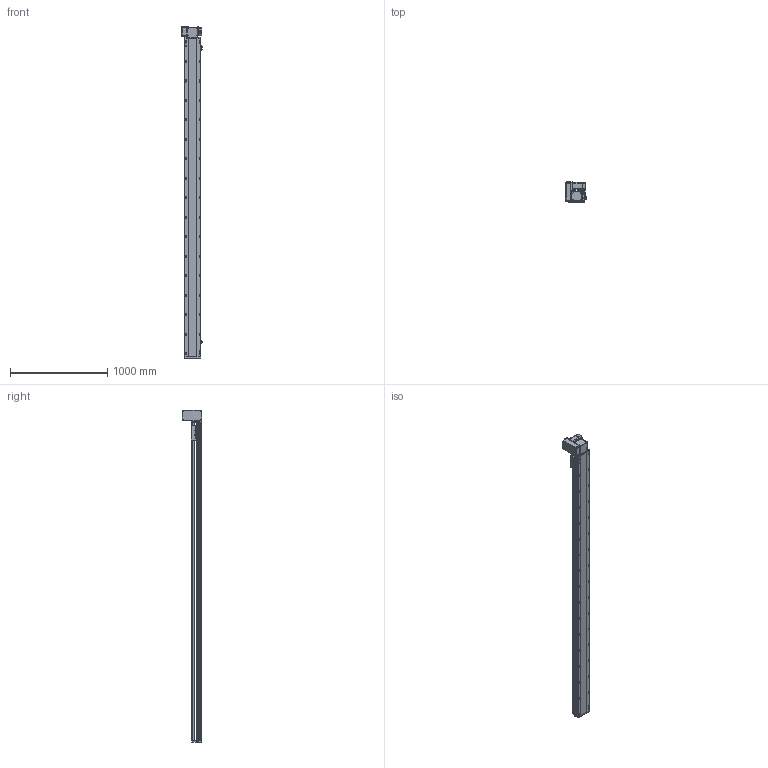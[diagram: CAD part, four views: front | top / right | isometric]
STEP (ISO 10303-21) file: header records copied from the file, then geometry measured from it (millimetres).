
FILE_DESCRIPTION (( 'STEP AP214' ), '1' );
FILE_NAME ('RTB17S-XX-3000-LW-M75-C4.STEP', '2025-12-12T01:20:08', ( '' ), ( '' ), 'SwSTEP 2.0', 'SolidWorks 2018', '' );
FILE_SCHEMA (( 'AUTOMOTIVE_DESIGN' ));
Length unit declared in the file: millimetre
Products named in the file (15): RTB22S-GY-008-M75--萇儂啣^RTB17S-LW-々湍釱蚾饜-750W_RTB17S-XX-XX-LW-M75-C4; RTB17S-L-001-耜醱啣^RTB17S-XX-XX-LW-M75-C4; RTB22S-GY-017P^RTB17S-LW-々湍釱蚾饜-750W_RTB17S-XX-XX-LW-M75-C4; RTB22S-GY-005P^RTB17S-LW-々湍釱蚾饜-750W_RTB17S-XX-XX-LW-M75-C4; RTB17S-L-014-T20-P75--々湍釱^RTB17S-LW-々湍釱蚾饜-750W_RTB17S-XX-XX-LW-M75-C4; RTB17S-LW-々湍釱蚾饜-750W^RTB17S-XX-XX-LW-M75-C4; 750W萇儂^RTB17S-XX-XX-LW-M75-C4; RTB17S-L-004-賑釱^RTB17S-賑釱_RTB17S-XX-XX-LW-M75-C4; RTB17-R-011菁釱^RTB17S-XX-XX-LW-M75-C4; RTB17S-L-007奻裔^RTB17S-XX-XX-LW-M75-C4; RTB22S-GY-018P^RTB17S-LW-々湍釱蚾饜-750W_RTB17S-XX-XX-LW-M75-C4; RTB17S-XX-3000-LW-M75-C4; EE672^RTB17S-XX-XX-LW-M75-C4; RTH13-BL-012覜茼え俋离^RTB17S-賑釱_RTB17S-XX-XX-LW-M75-C4; RTB17S-賑釱^RTB17S-XX-XX-LW-M75-C4
Assembly tree (17 placements, depth 3):
  RTB17S-XX-3000-LW-M75-C4
    RTB17-R-011菁釱^RTB17S-XX-XX-LW-M75-C4
    EE672^RTB17S-XX-XX-LW-M75-C4  x3
    RTB17S-L-001-耜醱啣^RTB17S-XX-XX-LW-M75-C4
    RTB17S-賑釱^RTB17S-XX-XX-LW-M75-C4
      RTB17S-L-004-賑釱^RTB17S-賑釱_RTB17S-XX-XX-LW-M75-C4
      RTH13-BL-012覜茼え俋离^RTB17S-賑釱_RTB17S-XX-XX-LW-M75-C4
    RTB17S-L-007奻裔^RTB17S-XX-XX-LW-M75-C4
    750W萇儂^RTB17S-XX-XX-LW-M75-C4
    RTB17S-LW-々湍釱蚾饜-750W^RTB17S-XX-XX-LW-M75-C4
      RTB17S-L-014-T20-P75--々湍釱^RTB17S-LW-々湍釱蚾饜-750W_RTB17S-XX-XX-LW-M75-C4
      RTB22S-GY-005P^RTB17S-LW-々湍釱蚾饜-750W_RTB17S-XX-XX-LW-M75-C4
      RTB22S-GY-017P^RTB17S-LW-々湍釱蚾饜-750W_RTB17S-XX-XX-LW-M75-C4  x2
      RTB22S-GY-008-M75--萇儂啣^RTB17S-LW-々湍釱蚾饜-750W_RTB17S-XX-XX-LW-M75-C4
      RTB22S-GY-018P^RTB17S-LW-々湍釱蚾饜-750W_RTB17S-XX-XX-LW-M75-C4
Bounding box: 210.4 x 201.5 x 3407.5 mm (x, y, z)
Volume: 24706077.9 mm3; surface area: 4526678.2 mm2
Topology: 17 solids, 17 shells, 2249 faces, 6322 edges, 4094 vertices
Faces by surface type: plane 990, cylinder 843, bspline 294, cone 110, sphere 8, torus 4
Entity records: 65782 total; most frequent: CARTESIAN_POINT 19586, ORIENTED_EDGE 9488, DIRECTION 8762, EDGE_CURVE 4744, AXIS2_PLACEMENT_3D 3114, VERTEX_POINT 3098, LINE 2534, VECTOR 2534
